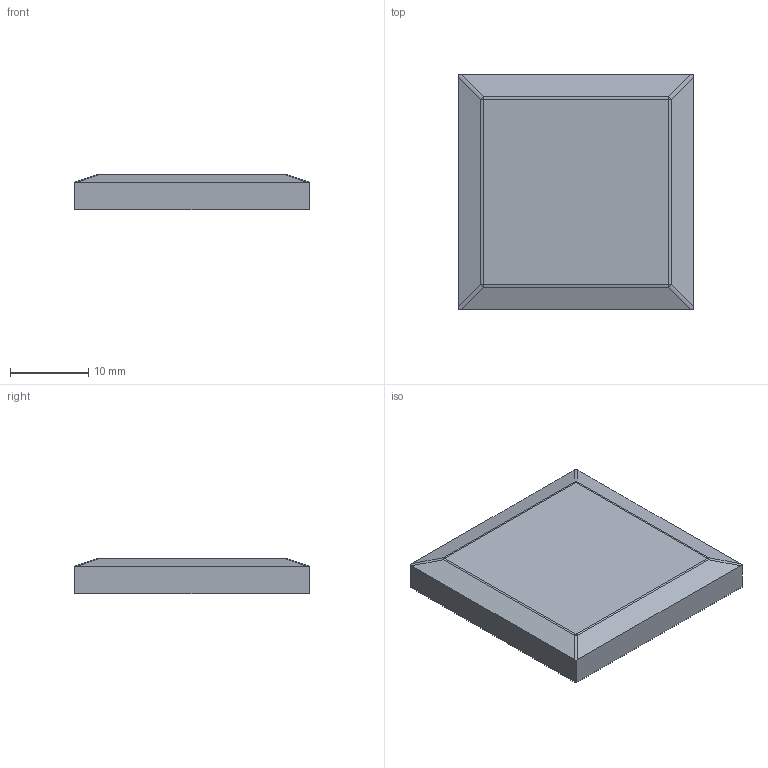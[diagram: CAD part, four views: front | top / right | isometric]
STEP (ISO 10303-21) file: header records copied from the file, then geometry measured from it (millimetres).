
FILE_DESCRIPTION(/* description */ ('Alibre Inc.'),/* implementation_level */ '2;1');
FILE_NAME(/* name */ 'export0',/* time_stamp */ '2013-07-16T13:10:09-06:00',/* author */ (''),/* organization */ (''),/* preprocessor_version */ 'ST-DEVELOPER v14',/* originating_system */ 'Alibre',/* authorisation */ '');
FILE_SCHEMA (('ALIBRE_SCHEMA','CONFIG_CONTROL_DESIGN'));
Length unit declared in the file: centimetre
Products named in the file (1): ID_1
Bounding box: 30 x 30 x 4.5 mm (x, y, z)
Volume: 3881.8 mm3; surface area: 2237.1 mm2
Topology: 1 solids, 1 shells, 22 faces, 48 edges, 28 vertices
Faces by surface type: plane 10, cylinder 8, sphere 4
Entity records: 1088 total; most frequent: CARTESIAN_POINT 126, DIRECTION 123, ORIENTED_EDGE 96, PERSISTANTTOPOLOGYATTRIBUTE 54, EDGE_CURVE 48, AXIS2_PLACEMENT_3D 46, VECTOR 42, INTEGERVALUEPAIR 33
